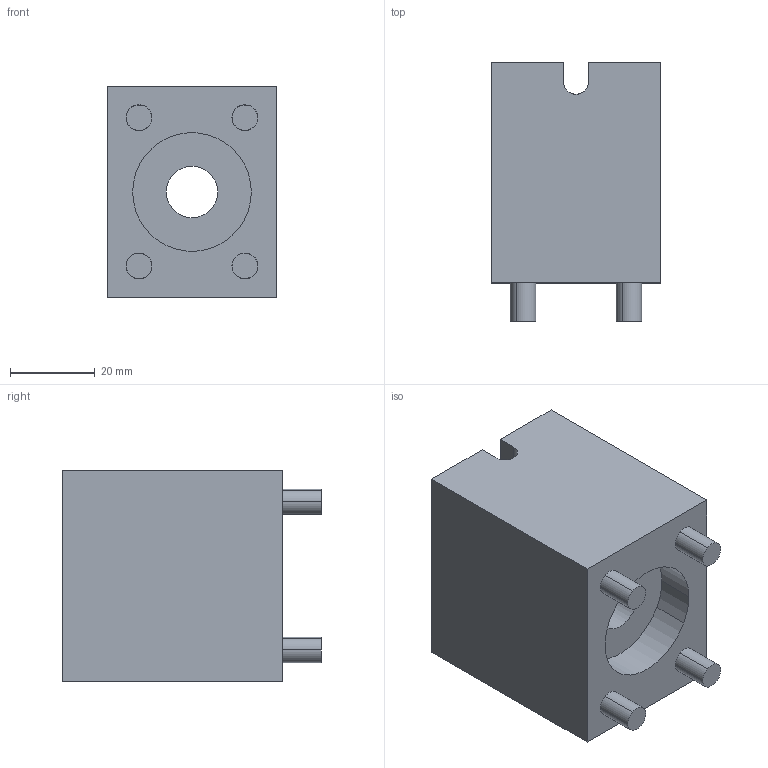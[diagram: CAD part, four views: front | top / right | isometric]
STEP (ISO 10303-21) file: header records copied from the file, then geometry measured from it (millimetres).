
FILE_DESCRIPTION(('STEP AP214'),'1');
FILE_NAME('EGT170_1705128_RD30_K40_HH.CATPart.stp','2015-09-14T13:10:27',('3D-Tool'),(' '),'Spatial InterOp 3D',' ',' ');
FILE_SCHEMA(('automotive_design'));
Length unit declared in the file: millimetre
Products named in the file (5): EGT170_1705128_RD30_K40_HH|EGT170_RD30_K40_HH|Bohrbearbeitung; 1; 2; 3; 4
Bounding box: 40 x 61.1 x 50 mm (x, y, z)
Volume: 77673.6 mm3; surface area: 26304.8 mm2
Topology: 5 solids, 5 shells, 135 faces, 336 edges, 224 vertices
Faces by surface type: cylinder 78, plane 57
Entity records: 5334 total; most frequent: DIRECTION 770, CARTESIAN_POINT 734, ORIENTED_EDGE 672, EDGE_CURVE 336, AXIS2_PLACEMENT_3D 296, VERTEX_POINT 224, LINE 178, VECTOR 178
